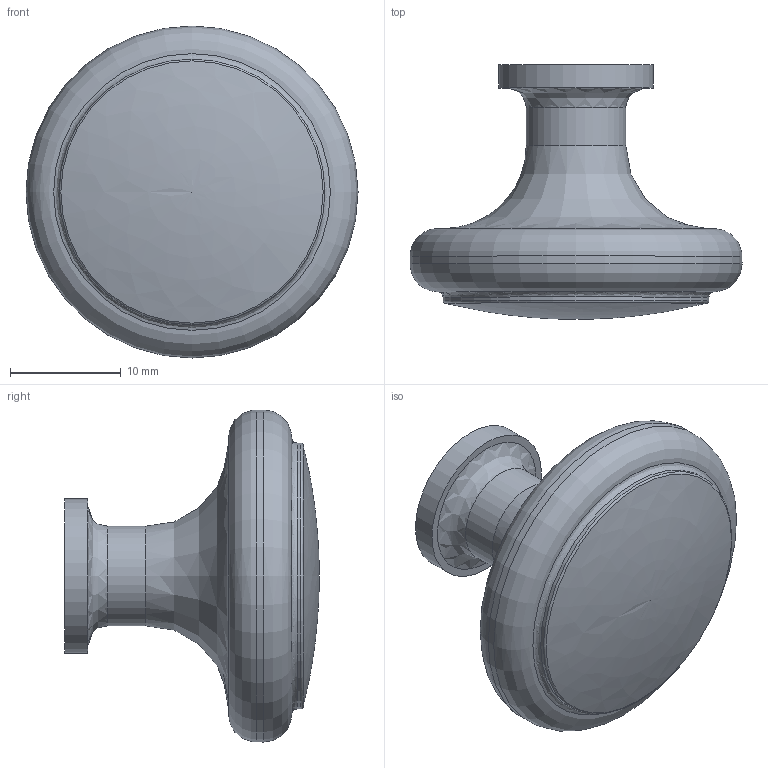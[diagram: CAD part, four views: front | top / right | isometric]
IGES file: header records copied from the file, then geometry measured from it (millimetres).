
Start section: Data from Parasolid IGES Translator 15.0.47, Copyright(c) 2006 Siemens P LM Software. All Rights Reserved.
Global section: file name: 9070575.igs; native system:  By UGS Corp.; preprocessor: XPlus GENERIC/IGES 3.0; author: Noname; organization: Noname; date: 20140122.101508; units: millimetre
Bounding box: 30 x 23 x 30 mm (x, y, z)
Surface area: 2477.3 mm2 (no closed solid volume)
Topology: 0 solids, 0 shells, 16 faces, 55 edges, 37 vertices
Faces by surface type: revolution 12, extrusion 4
